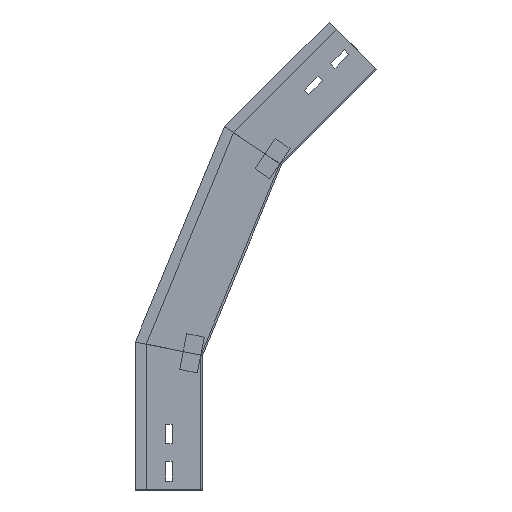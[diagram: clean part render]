
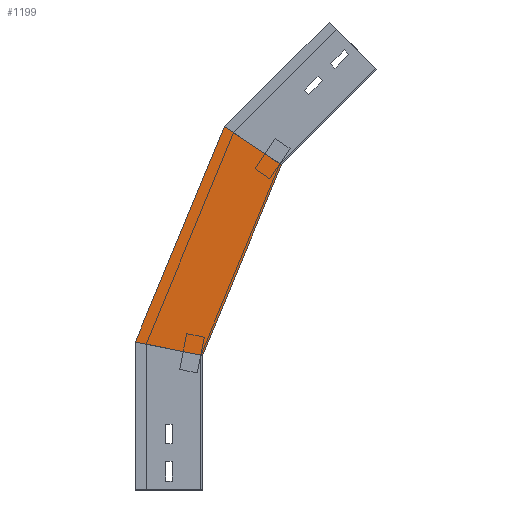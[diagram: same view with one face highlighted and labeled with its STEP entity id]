
A CAD part, left-side view. The second image highlights one B-rep face of the part: STEP entity #1199.
In plain terms, the highlighted planar face has unit normal (-1, 0, 0) as drawn and (1, 0, 0) by its records, which use the part's own axes.
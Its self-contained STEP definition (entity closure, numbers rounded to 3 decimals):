
#23 = CARTESIAN_POINT ( 'NONE',  ( 0., 6.318, 134.746 ) ) ;
#155 = CARTESIAN_POINT ( 'NONE',  ( 0., 6.318, 134.746 ) ) ;
#267 = LINE ( 'NONE', #1364, #1484 ) ;
#268 = LINE ( 'NONE', #23, #1381 ) ;
#299 = VECTOR ( 'NONE', #372, 1000. ) ;
#302 = CARTESIAN_POINT ( 'NONE',  ( 0., 75., 164.918 ) ) ;
#344 = CARTESIAN_POINT ( 'NONE',  ( 0., -28.701, 144.291 ) ) ;
#372 = DIRECTION ( 'NONE',  ( 0., -0.383, 0.924 ) ) ;
#462 = VERTEX_POINT ( 'NONE', #1079 ) ;
#502 = EDGE_CURVE ( 'NONE', #897, #462, #267, .T. ) ;
#645 = EDGE_LOOP ( 'NONE', ( #1189, #879, #842, #1466 ) ) ;
#705 = EDGE_CURVE ( 'NONE', #1297, #897, #1191, .T. ) ;
#722 = DIRECTION ( 'NONE',  ( 1., 0., 0. ) ) ;
#742 = DIRECTION ( 'NONE',  ( 0., 0., -1. ) ) ;
#776 = CARTESIAN_POINT ( 'NONE',  ( 0., -24.435, 404.976 ) ) ;
#813 = AXIS2_PLACEMENT_3D ( 'NONE', #155, #722, #742 ) ;
#842 = ORIENTED_EDGE ( 'NONE', *, *, #1196, .F. ) ;
#847 = DIRECTION ( 'NONE',  ( 0., -0.981, -0.195 ) ) ;
#849 = CARTESIAN_POINT ( 'NONE',  ( 0., 75.609, 163.448 ) ) ;
#879 = ORIENTED_EDGE ( 'NONE', *, *, #502, .T. ) ;
#897 = VERTEX_POINT ( 'NONE', #776 ) ;
#1021 = DIRECTION ( 'NONE',  ( 0., -0.831, -0.556 ) ) ;
#1079 = CARTESIAN_POINT ( 'NONE',  ( 0., -88.017, 362.492 ) ) ;
#1126 = VERTEX_POINT ( 'NONE', #1384 ) ;
#1142 = EDGE_CURVE ( 'NONE', #1297, #1126, #1164, .T. ) ;
#1164 = LINE ( 'NONE', #344, #1170 ) ;
#1170 = VECTOR ( 'NONE', #847, 1000. ) ;
#1189 = ORIENTED_EDGE ( 'NONE', *, *, #705, .T. ) ;
#1191 = LINE ( 'NONE', #849, #299 ) ;
#1196 = EDGE_CURVE ( 'NONE', #1126, #462, #268, .T. ) ;
#1199 = ADVANCED_FACE ( 'NONE', ( #1399 ), #1328, .T. ) ;
#1297 = VERTEX_POINT ( 'NONE', #302 ) ;
#1303 = DIRECTION ( 'NONE',  ( 0., -0.383, 0.924 ) ) ;
#1328 = PLANE ( 'NONE',  #813 ) ;
#1364 = CARTESIAN_POINT ( 'NONE',  ( 0., -128.004, 335.774 ) ) ;
#1381 = VECTOR ( 'NONE', #1303, 1000. ) ;
#1384 = CARTESIAN_POINT ( 'NONE',  ( 0., 0., 150. ) ) ;
#1399 = FACE_OUTER_BOUND ( 'NONE', #645, .T. ) ;
#1466 = ORIENTED_EDGE ( 'NONE', *, *, #1142, .F. ) ;
#1484 = VECTOR ( 'NONE', #1021, 1000. ) ;
